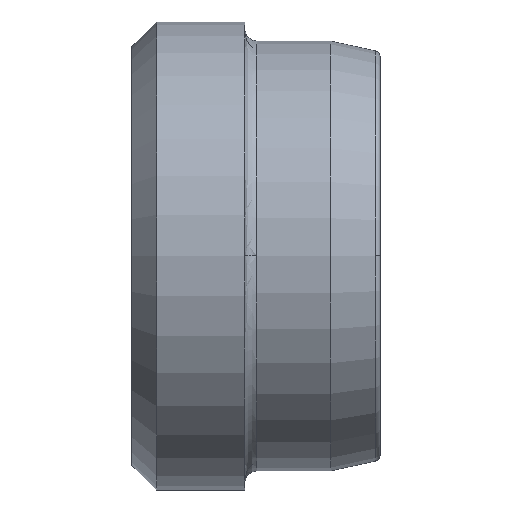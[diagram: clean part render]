
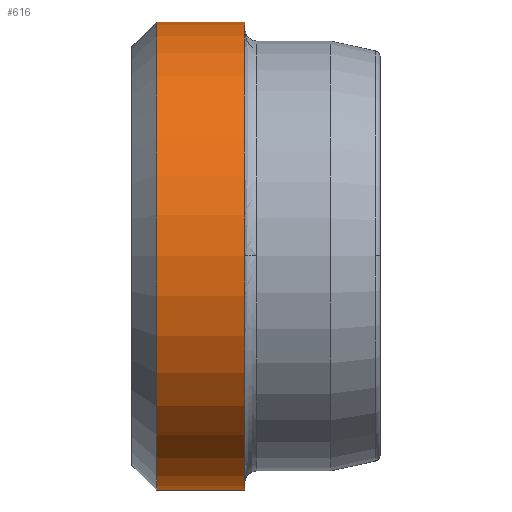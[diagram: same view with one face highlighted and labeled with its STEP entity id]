
A CAD part, top view. The second image highlights one B-rep face of the part: STEP entity #616.
In plain terms, the highlighted cylindrical face has radius 9.5 mm (diameter 19 mm), a partial arc.
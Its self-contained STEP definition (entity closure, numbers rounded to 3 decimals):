
#575=CARTESIAN_POINT('',(-3.037,-3.133,0.0));
#576=DIRECTION('',(1.0,0.0,0.0));
#577=DIRECTION('',(0.0,1.0,0.0));
#578=AXIS2_PLACEMENT_3D('',#575,#576,#577);
#579=CYLINDRICAL_SURFACE('',#578,9.5);
#580=CARTESIAN_POINT('',(-4.325,6.367,0.0));
#581=VERTEX_POINT('',#580);
#582=CARTESIAN_POINT('',(-0.75,6.367,0.0));
#583=VERTEX_POINT('',#582);
#584=CARTESIAN_POINT('',(-4.325,6.367,0.0));
#585=DIRECTION('',(1.0,0.0,0.0));
#586=VECTOR('',#585,3.575);
#587=LINE('',#584,#586);
#588=EDGE_CURVE('',#581,#583,#587,.T.);
#589=ORIENTED_EDGE('',*,*,#588,.F.);
#590=CARTESIAN_POINT('',(-4.325,-12.633,0.));
#591=VERTEX_POINT('',#590);
#592=CARTESIAN_POINT('',(-4.325,-3.133,0.0));
#593=DIRECTION('',(-1.0,0.0,0.0));
#594=DIRECTION('',(0.0,-1.0,0.0));
#595=AXIS2_PLACEMENT_3D('',#592,#593,#594);
#596=CIRCLE('',#595,9.5);
#597=EDGE_CURVE('',#591,#581,#596,.T.);
#598=ORIENTED_EDGE('',*,*,#597,.F.);
#599=CARTESIAN_POINT('',(-0.75,-12.633,0.));
#600=VERTEX_POINT('',#599);
#601=CARTESIAN_POINT('',(-0.75,-12.633,0.));
#602=DIRECTION('',(-1.0,0.0,0.0));
#603=VECTOR('',#602,3.575);
#604=LINE('',#601,#603);
#605=EDGE_CURVE('',#600,#591,#604,.T.);
#606=ORIENTED_EDGE('',*,*,#605,.F.);
#607=CARTESIAN_POINT('',(-0.75,-3.133,0.0));
#608=DIRECTION('',(1.0,0.0,0.0));
#609=DIRECTION('',(0.0,1.0,0.0));
#610=AXIS2_PLACEMENT_3D('',#607,#608,#609);
#611=CIRCLE('',#610,9.5);
#612=EDGE_CURVE('',#583,#600,#611,.T.);
#613=ORIENTED_EDGE('',*,*,#612,.F.);
#614=EDGE_LOOP('',(#589,#598,#606,#613));
#615=FACE_OUTER_BOUND('',#614,.T.);
#616=ADVANCED_FACE('',(#615),#579,.T.);
